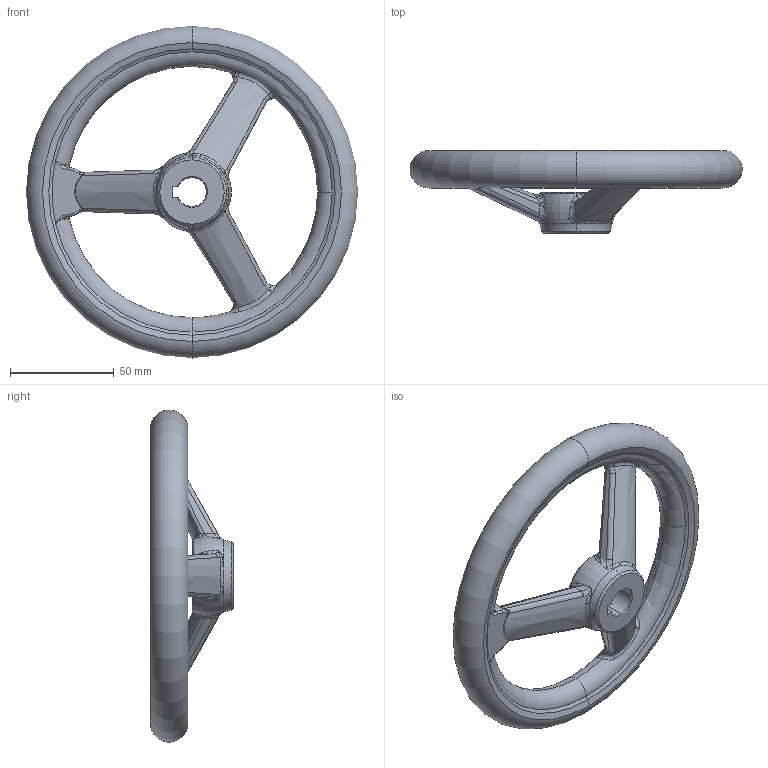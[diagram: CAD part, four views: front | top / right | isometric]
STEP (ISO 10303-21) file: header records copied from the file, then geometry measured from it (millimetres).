
FILE_DESCRIPTION (( 'STEP AP203' ), '1' );
FILE_NAME ('din950_a3_160x14.step', '2010-03-23T09:48:18', ( '_' ), ( '_' ), 'SwSTEP 2.0', 'SolidWorks 2010', '' );
FILE_SCHEMA (( 'CONFIG_CONTROL_DESIGN' ));
Length unit declared in the file: millimetre
Products named in the file (1): din950_a3_160x14
Bounding box: 159.93 x 40 x 159.93 mm (x, y, z)
Volume: 158522.3 mm3; surface area: 36819.1 mm2
Topology: 1 solids, 1 shells, 205 faces, 504 edges, 271 vertices
Faces by surface type: bspline 142, torus 24, cone 18, plane 13, cylinder 8
Entity records: 25496 total; most frequent: CARTESIAN_POINT 21611, ORIENTED_EDGE 960, DIRECTION 518, EDGE_CURVE 480, VERTEX_POINT 271, B_SPLINE_CURVE_WITH_KNOTS 265, AXIS2_PLACEMENT_3D 243, EDGE_LOOP 207
